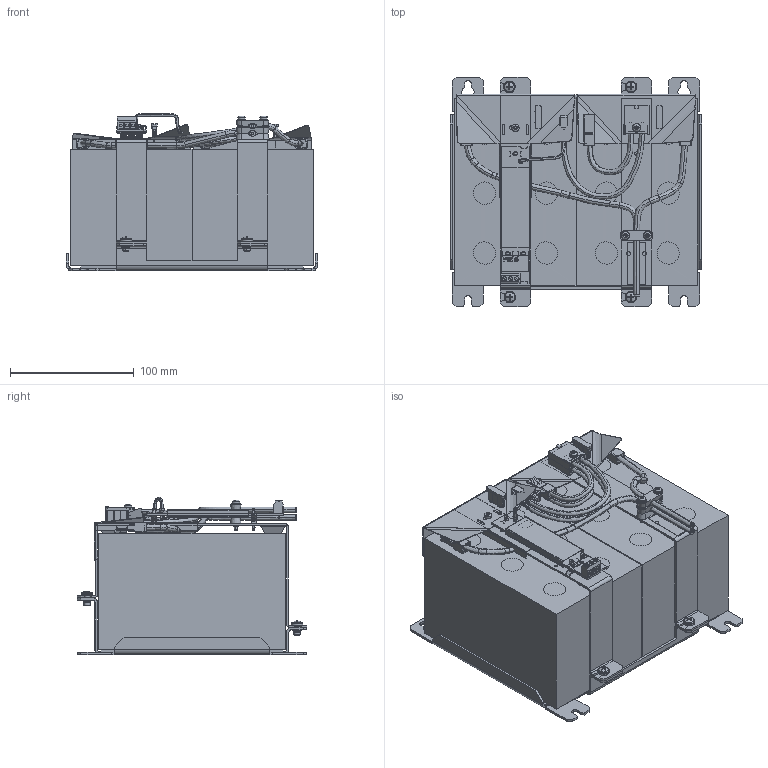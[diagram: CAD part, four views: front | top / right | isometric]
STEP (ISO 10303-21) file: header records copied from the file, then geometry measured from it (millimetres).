
FILE_DESCRIPTION((''),'2;1');
FILE_NAME('AZ-393_100_07_ASM','2021-03-26T',('kiesel'),(''),'CREO PARAMETRIC BY PTC INC, 2014500','CREO PARAMETRIC BY PTC INC, 2014500','');
FILE_SCHEMA(('CONFIG_CONTROL_DESIGN','GEOMETRIC_VALIDATION_PROPERTIES_MIM'));
Products named in the file (57): EW-393_990_05; EA-TAPE_EPDM-10__180MM_; GB-NP12_12-30; EW-393_980_00; EA-GEFU7-30; ED-5008_7985-10; EL-393_920_05; FH-FHK-10; EF-KABELHA-34; ED-A30_137-A2; ED-3016_7985-10; EI-393_900_00; EL-200_819_00-GENAU; ED-B30_127-10; EP-393_235_00-10; RW-OR015-DA; XT-LP3BL-D9; FY-RGEF400-X1; AZ-393-SCHRUMPFSCHLAUCH; EL-393_930_00; AP-393_230_00-10A-RAS_ASM; WI-393_730_00; ES-ELH6-20-EINBAU; WI-393_730_00-EINBAULANG_ASM; EF-LPAB5-12; ED-M30_934-10; AZ-393_100_05_1_ASM; AZ-393_100_05_ASM; C-928966-2-D-3D; XS-STEHU6_6_T-20; WI-393_850_00-BG-WIRE-01; WI-393_850_00-BG-INSUL-01; WI-393_850_00-BG-LITZE-01_ASM; WI-393_850_00-BG-WIRE-02; WI-393_850_00-BG-INSUL-02; WI-393_850_00-BG-LITZE-02_ASM; WI-393_850_00-BG_ASM; XS-STEHU6_5-22; XS-HOUSING_1P-21; WI-393_740_00-BG_ASM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
Assembly tree (102 placements, depth 5):
  AZ-393_100_07_ASM
    AZ-393_100_05_ASM
      AZ-393_100_05_1_ASM
        EW-393_990_05
        EA-TAPE_EPDM-10__180MM_  x2
        GB-NP12_12-30  x2
        EW-393_980_00  x2
        EA-GEFU7-30  x4
        ED-5008_7985-10  x4
        EL-393_920_05
        FH-FHK-10
        EF-KABELHA-34  x2
        ED-A30_137-A2  x3
        ED-3016_7985-10  x2
        EI-393_900_00
        EL-200_819_00-GENAU
        ED-B30_127-10  x3
        AP-393_230_00-10A-RAS_ASM
          EP-393_235_00-10
          RW-OR015-DA  x7
          XT-LP3BL-D9
          FY-RGEF400-X1
          AZ-393-SCHRUMPFSCHLAUCH
          EL-393_930_00
        WI-393_730_00-EINBAULANG_ASM
          WI-393_730_00
          ES-ELH6-20-EINBAU
        EF-LPAB5-12  x3
        ED-M30_934-10
    WI-393_850_00-BG_ASM
      C-928966-2-D-3D  x2
      FH-FHK-10
      XS-STEHU6_6_T-20  x2
      WI-393_850_00-BG-LITZE-01_ASM
        WI-393_850_00-BG-WIRE-01
        WI-393_850_00-BG-INSUL-01
      WI-393_850_00-BG-LITZE-02_ASM
        WI-393_850_00-BG-WIRE-02
        WI-393_850_00-BG-INSUL-02
    WI-393_740_00-BG_ASM
      C-928966-2-D-3D  x2
      FH-FHK-10
      XS-STEHU6_6_T-20
      XS-STEHU6_5-22
      WI-393_850_00-BG-LITZE-01_ASM
        WI-393_850_00-BG-WIRE-01
        WI-393_850_00-BG-INSUL-01
      WI-393_850_00-BG-LITZE-02_ASM
        WI-393_850_00-BG-WIRE-02
        WI-393_850_00-BG-INSUL-02
      XS-HOUSING_1P-21
    WI-393_830_00-BG_ASM
      XS-STEHU6_5-22
      XS-HOUSING_1P-21
      WI-393_830_00-BG-LITZE_ASM
        WI-393_830_00-BG-WIRE
        WI-393_830_00-BG-INSUL
    WI-393_840_00-BG_ASM
      XS-STEHU6_5-22
      XS-HOUSING_1P-21
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Bounding box: 203.3 x 186 x 127.16 mm (x, y, z)
Volume: 2919877.6 mm3; surface area: 356891.7 mm2
Topology: 93 solids, 403 shells, 4734 faces, 13360 edges, 9210 vertices
Faces by surface type: plane 2565, cylinder 1191, bspline 422, extrusion 227, torus 168, cone 153, sphere 8
Entity records: 123757 total; most frequent: CARTESIAN_POINT 38725, ORIENTED_EDGE 13098, DIRECTION 11892, EDGE_CURVE 6837, PRESENTATION_STYLE_ASSIGNMENT 6043, STYLED_ITEM 5871, CURVE_STYLE 5667, VERTEX_POINT 4616
